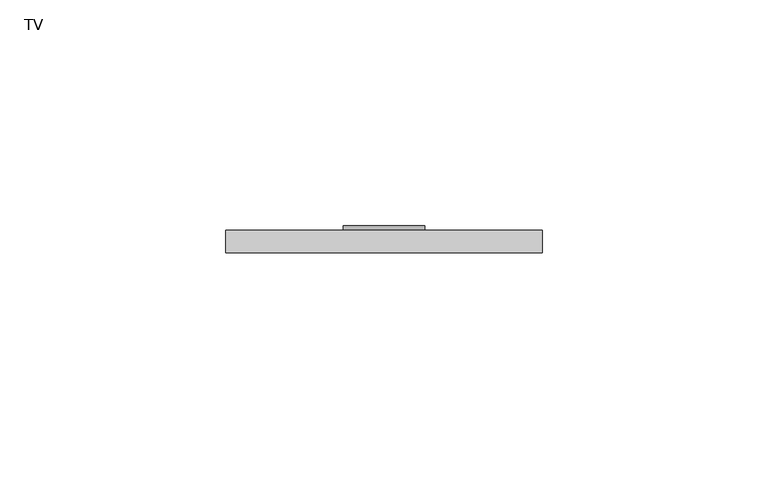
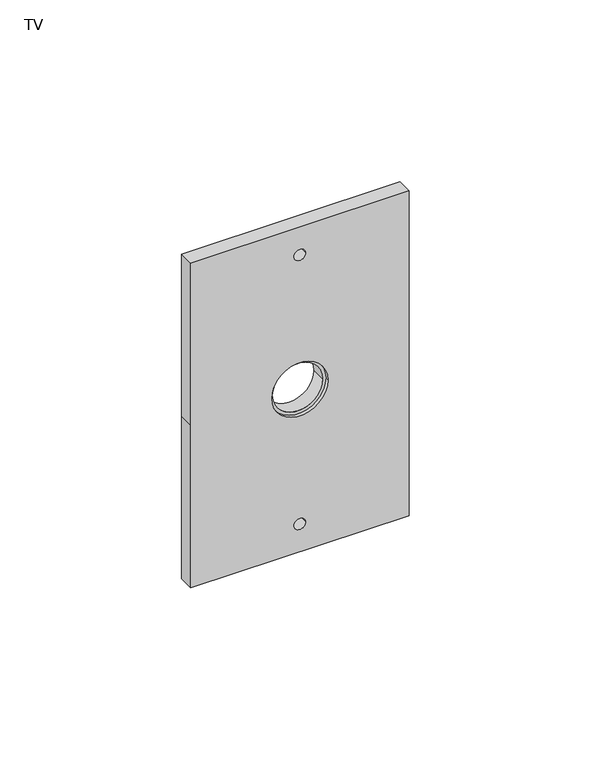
"""IFC4 building model written with IfcOpenShell, lengths in millimetres: proxy geometry, TV : Contacto-comunicaciones."""

from ifc_helpers import new_model, si_unit, point, frame, frame_2d, origin, place, context, project, spatial, polyline, circle_curve, trimmed, segment, composite_curve, outline, extrude, source, transform, mapped, element, save


def tv_9fe86f86(model_context):
    return source(origin(), model_context, "Body", "SweptSolid", [
        extrude(outline(composite_curve([segment(trimmed(circle_curve(frame_2d((350.0, 125.0)), 9.0), [point((350.0, 116.0))], [point((350.0, 134.0))], False, "CARTESIAN"), True, "CONTINUOUS"), segment(trimmed(circle_curve(frame_2d((350.0, 125.0)), 9.0), [point((350.0, 134.0))], [point((350.0, 116.0))], False, "CARTESIAN"), True, "CONTINUOUS")], self_intersect=False), holes=[composite_curve([segment(trimmed(circle_curve(frame_2d((350.0, 125.0)), 8.0), [point((350.0, 133.0))], [point((350.0, 117.0))], True, "CARTESIAN"), True, "CONTINUOUS"), segment(trimmed(circle_curve(frame_2d((350.0, 125.0)), 8.0), [point((350.0, 117.0))], [point((350.0, 133.0))], True, "CARTESIAN"), True, "CONTINUOUS")], self_intersect=False)]), frame((0.0, 86.2025607, 0.0), z_axis=(0.0, 1.0, 0.0), x_axis=(0.0, 0.0, 1.0)), (0.0, 0.0, 1.0), 4.7658788),
        extrude(outline(polyline([(405.0, 160.0), (405.0, 90.0), (350.0, 90.0), (295.0, 90.0), (295.0, 160.0), (405.0, 160.0)]), holes=[composite_curve([segment(trimmed(circle_curve(frame_2d((395.5814465, 125.0)), 1.8475425), [point((395.5814465, 123.1524575))], [point((395.5814465, 126.8475425))], True, "CARTESIAN"), True, "CONTINUOUS"), segment(trimmed(circle_curve(frame_2d((395.5814465, 125.0)), 1.8475425), [point((395.5814465, 126.8475425))], [point((395.5814465, 123.1524575))], True, "CARTESIAN"), True, "CONTINUOUS")], self_intersect=False), composite_curve([segment(trimmed(circle_curve(frame_2d((304.4185535, 125.0)), 1.8475425), [point((304.4185535, 123.1524575))], [point((304.4185535, 126.8475425))], True, "CARTESIAN"), True, "CONTINUOUS"), segment(trimmed(circle_curve(frame_2d((304.4185535, 125.0)), 1.8475425), [point((304.4185535, 126.8475425))], [point((304.4185535, 123.1524575))], True, "CARTESIAN"), True, "CONTINUOUS")], self_intersect=False), composite_curve([segment(trimmed(circle_curve(frame_2d((350.0, 125.0)), 9.0), [point((350.0, 116.0))], [point((350.0, 134.0))], True, "CARTESIAN"), True, "CONTINUOUS"), segment(trimmed(circle_curve(frame_2d((350.0, 125.0)), 9.0), [point((350.0, 134.0))], [point((350.0, 116.0))], True, "CARTESIAN"), True, "CONTINUOUS")], self_intersect=False)]), frame((0.0, 85.0, 0.0), z_axis=(0.0, 1.0, 0.0), x_axis=(0.0, 0.0, 1.0)), (0.0, 0.0, 1.0), 5.0),
    ])


if __name__ == "__main__":
    model = new_model("IFC4")
    model_context = context("Model", 3, world=origin())
    ifc_project = project(units=[si_unit("LENGTHUNIT", "METRE", prefix="MILLI")], contexts=[model_context])
    site = spatial("IfcSite", under=ifc_project)
    building = spatial("IfcBuilding", under=site)
    placement = place(None, origin())
    tv_shape = tv_9fe86f86(model_context)
    element("IfcBuildingElementProxy", 1, Name="TV : Contacto-comunicaciones", ObjectType="TV : Contacto-comunicaciones", at=placement, inside=building, context=model_context, shape_type="MappedRepresentation", body=[
        mapped(tv_shape, transform((0.0, 0.0, 0.0), x_axis=(1.0, 0.0, 0.0), y_axis=(0.0, 1.0, 0.0), z_axis=(0.0, 0.0, 1.0))),
    ])
    save(model, "model.ifc")
